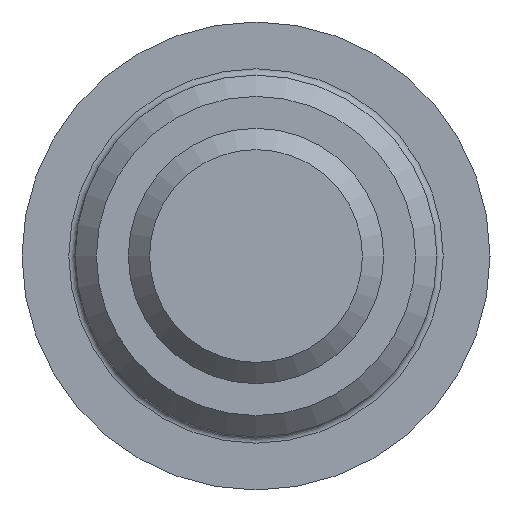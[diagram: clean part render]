
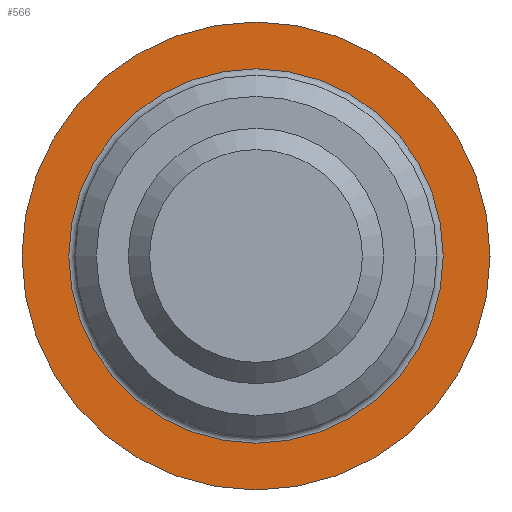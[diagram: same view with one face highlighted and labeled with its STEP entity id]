
A CAD part, left-side view. The second image highlights one B-rep face of the part: STEP entity #566.
In plain terms, the highlighted planar face has unit normal (-1, 0, 0).
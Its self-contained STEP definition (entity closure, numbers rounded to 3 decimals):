
#25=FACE_BOUND('',#181,.T.);
#39=PLANE('',#660);
#143=FACE_OUTER_BOUND('',#180,.T.);
#180=EDGE_LOOP('',(#490));
#181=EDGE_LOOP('',(#491));
#226=CIRCLE('',#658,8.8);
#228=CIRCLE('',#661,11.);
#282=VERTEX_POINT('',#1076);
#283=VERTEX_POINT('',#1081);
#356=EDGE_CURVE('',#282,#282,#226,.T.);
#358=EDGE_CURVE('',#283,#283,#228,.T.);
#490=ORIENTED_EDGE('',*,*,#358,.F.);
#491=ORIENTED_EDGE('',*,*,#356,.F.);
#566=ADVANCED_FACE('',(#143,#25),#39,.T.);
#658=AXIS2_PLACEMENT_3D('',#1078,#824,#825);
#660=AXIS2_PLACEMENT_3D('',#1080,#828,#829);
#661=AXIS2_PLACEMENT_3D('',#1082,#830,#831);
#824=DIRECTION('center_axis',(-1.,0.,0.));
#825=DIRECTION('ref_axis',(0.,-1.,0.));
#828=DIRECTION('center_axis',(-1.,0.,0.));
#829=DIRECTION('ref_axis',(0.,0.,1.));
#830=DIRECTION('center_axis',(1.,0.,0.));
#831=DIRECTION('ref_axis',(0.,1.,0.));
#1076=CARTESIAN_POINT('',(-35.,0.,8.8));
#1078=CARTESIAN_POINT('Origin',(-35.,0.,0.));
#1080=CARTESIAN_POINT('Origin',(-35.,5.5,0.));
#1081=CARTESIAN_POINT('',(-35.,-11.,0.));
#1082=CARTESIAN_POINT('Origin',(-35.,0.,0.));
